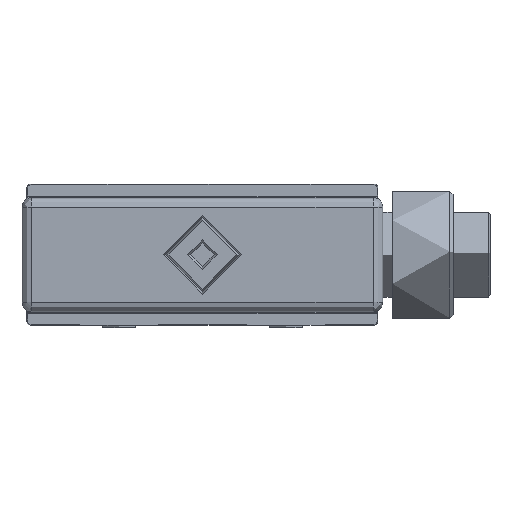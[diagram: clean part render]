
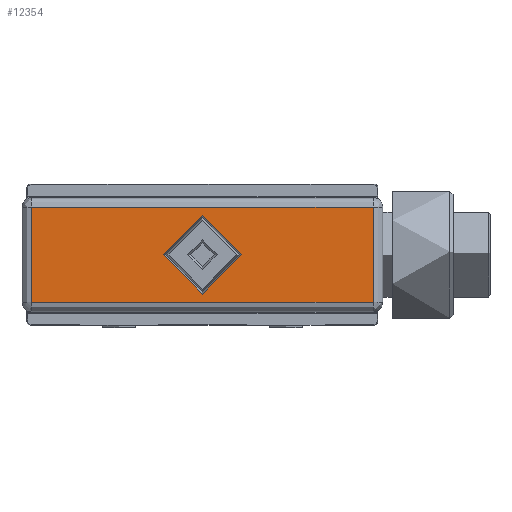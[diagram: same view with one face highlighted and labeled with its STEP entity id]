
A CAD part, front view. The second image highlights one B-rep face of the part: STEP entity #12354.
In plain terms, the highlighted planar face has unit normal (0, -1, 0).
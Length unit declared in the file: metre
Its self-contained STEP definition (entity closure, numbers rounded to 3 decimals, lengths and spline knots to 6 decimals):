
#12223=CARTESIAN_POINT('',(-0.042511,-0.033251,0.118941));
#12224=VERTEX_POINT('',#12223);
#12251=CARTESIAN_POINT('',(-0.042511,-0.033251,0.063741));
#12252=DIRECTION('',(0.,0.,1.));
#12253=VECTOR('',#12252,1.);
#12254=LINE('',#12251,#12253);
#12255=CARTESIAN_POINT('',(-0.042511,-0.033251,0.133441));
#12256=VERTEX_POINT('',#12255);
#12257=EDGE_CURVE('',#12224,#12256,#12254,.T.);
#12301=CARTESIAN_POINT('',(-0.016511,-0.033251,0.126191));
#12302=DIRECTION('',(0.,-1.,0.));
#12303=DIRECTION('',(0.,0.,-1.));
#12304=AXIS2_PLACEMENT_3D('',#12301,#12302,#12303);
#12305=CIRCLE('',#12304,0.006);
#12306=CARTESIAN_POINT('',(-0.016511,-0.033251,0.132191));
#12307=VERTEX_POINT('',#12306);
#12308=EDGE_CURVE('',#12307,#12307,#12305,.T.);
#12321=CARTESIAN_POINT('',(-0.044011,-0.033251,0.063741));
#12322=DIRECTION('',(0.,1.,0.));
#12323=DIRECTION('',(0.,0.,1.));
#12324=AXIS2_PLACEMENT_3D('',#12321,#12322,#12323);
#12325=PLANE('',#12324);
#12326=ORIENTED_EDGE('',*,*,#12308,.F.);
#12327=EDGE_LOOP('',(#12326));
#12328=FACE_BOUND('',#12327,.T.);
#12329=CARTESIAN_POINT('',(-0.044011,-0.033251,0.133441));
#12330=DIRECTION('',(1.,0.,0.));
#12331=VECTOR('',#12330,1.);
#12332=LINE('',#12329,#12331);
#12333=CARTESIAN_POINT('',(0.009489,-0.033251,0.133441));
#12334=VERTEX_POINT('',#12333);
#12335=EDGE_CURVE('',#12256,#12334,#12332,.T.);
#12336=ORIENTED_EDGE('',*,*,#12335,.F.);
#12337=ORIENTED_EDGE('',*,*,#12257,.F.);
#12338=CARTESIAN_POINT('',(-0.044011,-0.033251,0.118941));
#12339=DIRECTION('',(1.,0.,0.));
#12340=VECTOR('',#12339,1.);
#12341=LINE('',#12338,#12340);
#12342=CARTESIAN_POINT('',(0.009489,-0.033251,0.118941));
#12343=VERTEX_POINT('',#12342);
#12344=EDGE_CURVE('',#12224,#12343,#12341,.T.);
#12345=ORIENTED_EDGE('',*,*,#12344,.T.);
#12346=CARTESIAN_POINT('',(0.009489,-0.033251,0.063741));
#12347=DIRECTION('',(0.,0.,-1.));
#12348=VECTOR('',#12347,1.);
#12349=LINE('',#12346,#12348);
#12350=EDGE_CURVE('',#12334,#12343,#12349,.T.);
#12351=ORIENTED_EDGE('',*,*,#12350,.F.);
#12352=EDGE_LOOP('',(#12336,#12337,#12345,#12351));
#12353=FACE_BOUND('',#12352,.T.);
#12354=ADVANCED_FACE('',(#12328,#12353),#12325,.F.);
